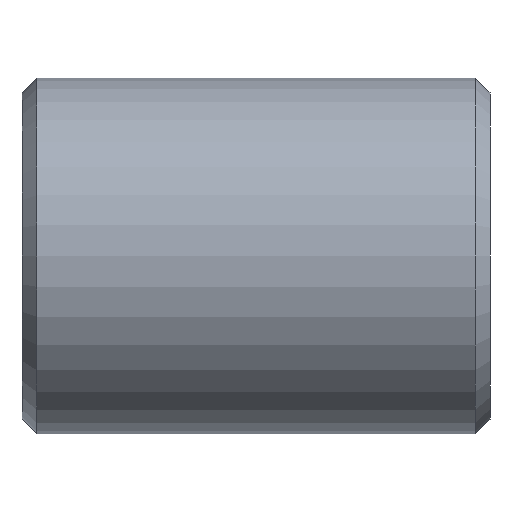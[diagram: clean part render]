
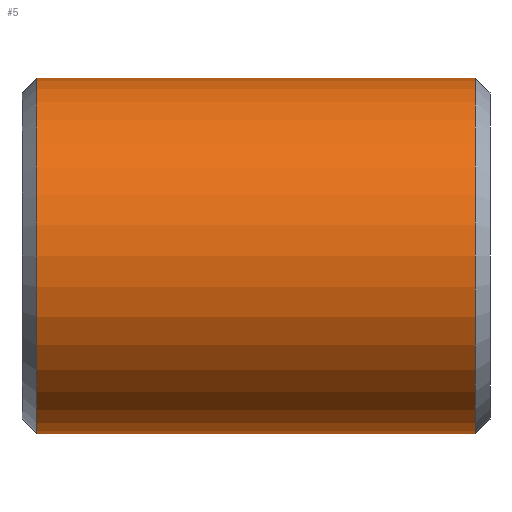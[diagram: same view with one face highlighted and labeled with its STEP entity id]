
A CAD part, front view. The second image highlights one B-rep face of the part: STEP entity #5.
In plain terms, the highlighted cylindrical face has radius 71.5 mm (diameter 143 mm), a partial arc.
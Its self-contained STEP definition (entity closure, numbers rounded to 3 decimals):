
#5 = ADVANCED_FACE ( 'NONE', ( #290 ), #347, .T. ) ;
#27 = DIRECTION ( 'NONE',  ( -1., 0., 0. ) ) ;
#29 = DIRECTION ( 'NONE',  ( 0., 0., 1. ) ) ;
#33 = ORIENTED_EDGE ( 'NONE', *, *, #419, .T. ) ;
#34 = CARTESIAN_POINT ( 'NONE',  ( 182., 0., 71.5 ) ) ;
#50 = CARTESIAN_POINT ( 'NONE',  ( 182., 0., -71.5 ) ) ;
#81 = CARTESIAN_POINT ( 'NONE',  ( 6., 0., 0. ) ) ;
#91 = EDGE_LOOP ( 'NONE', ( #287, #193, #33, #293 ) ) ;
#101 = VECTOR ( 'NONE', #309, 1000. ) ;
#105 = AXIS2_PLACEMENT_3D ( 'NONE', #201, #432, #244 ) ;
#106 = AXIS2_PLACEMENT_3D ( 'NONE', #223, #27, #29 ) ;
#111 = CARTESIAN_POINT ( 'NONE',  ( 0., 0., -71.5 ) ) ;
#120 = DIRECTION ( 'NONE',  ( 0., 0., -1. ) ) ;
#126 = CARTESIAN_POINT ( 'NONE',  ( 0., 0., 71.5 ) ) ;
#151 = AXIS2_PLACEMENT_3D ( 'NONE', #81, #345, #120 ) ;
#161 = VERTEX_POINT ( 'NONE', #34 ) ;
#175 = VERTEX_POINT ( 'NONE', #334 ) ;
#193 = ORIENTED_EDGE ( 'NONE', *, *, #411, .T. ) ;
#198 = VERTEX_POINT ( 'NONE', #266 ) ;
#201 = CARTESIAN_POINT ( 'NONE',  ( 182., 0., 0. ) ) ;
#217 = LINE ( 'NONE', #111, #101 ) ;
#223 = CARTESIAN_POINT ( 'NONE',  ( 0., 0., 0. ) ) ;
#224 = LINE ( 'NONE', #126, #276 ) ;
#244 = DIRECTION ( 'NONE',  ( 0., 0., 1. ) ) ;
#266 = CARTESIAN_POINT ( 'NONE',  ( 6., 0., 71.5 ) ) ;
#276 = VECTOR ( 'NONE', #331, 1000. ) ;
#285 = EDGE_CURVE ( 'NONE', #407, #175, #217, .T. ) ;
#287 = ORIENTED_EDGE ( 'NONE', *, *, #285, .F. ) ;
#290 = FACE_OUTER_BOUND ( 'NONE', #91, .T. ) ;
#293 = ORIENTED_EDGE ( 'NONE', *, *, #356, .T. ) ;
#309 = DIRECTION ( 'NONE',  ( -1., 0., 0. ) ) ;
#331 = DIRECTION ( 'NONE',  ( -1., 0., 0. ) ) ;
#334 = CARTESIAN_POINT ( 'NONE',  ( 6., 0., -71.5 ) ) ;
#345 = DIRECTION ( 'NONE',  ( 1., 0., 0. ) ) ;
#347 = CYLINDRICAL_SURFACE ( 'NONE', #106, 71.5 ) ;
#356 = EDGE_CURVE ( 'NONE', #198, #175, #415, .T. ) ;
#373 = CIRCLE ( 'NONE', #105, 71.5 ) ;
#407 = VERTEX_POINT ( 'NONE', #50 ) ;
#411 = EDGE_CURVE ( 'NONE', #407, #161, #373, .T. ) ;
#415 = CIRCLE ( 'NONE', #151, 71.5 ) ;
#419 = EDGE_CURVE ( 'NONE', #161, #198, #224, .T. ) ;
#432 = DIRECTION ( 'NONE',  ( -1., 0., 0. ) ) ;
